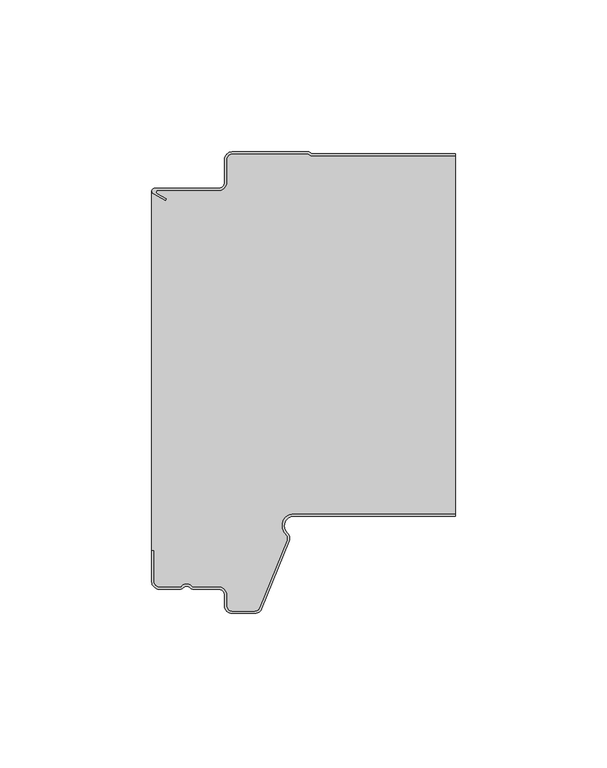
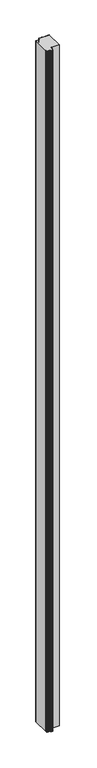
"""IFC4 building model written with IfcOpenShell, lengths in millimetres: plate geometry, ACH_Panel-Cubierta-3-Grecas-P3G : ACH_P3G_3-Rib-Roof-Panel_120M."""

from ifc_helpers import new_model, si_unit, point, frame_2d, origin, origin_with_axes, place, context, project, spatial, polyline, circle_curve, trimmed, segment, composite_curve, outline, extrude, source, transform, mapped, element, save


def plate_7d43ae7f(model_context):
    return source(origin(), model_context, "Body", "SweptSolid", [
        extrude(outline(composite_curve([segment(polyline([(-49.496875, -13.8660254), (-45.496875, -16.1754265), (-45.096875, -15.4826062), (-48.1272598, -13.7330127)]), True, "CONTINUOUS"), segment(trimmed(circle_curve(frame_2d((-47.8772598, -13.3)), 0.5), [point((-48.1272598, -13.7330127))], [point((-47.8772598, -12.8))], False, "CARTESIAN"), True, "CONTINUOUS"), segment(polyline([(-47.8772598, -12.8), (-27.996875, -12.8)]), True, "CONTINUOUS"), segment(trimmed(circle_curve(frame_2d((-27.996875, -10.0)), 2.8), [point((-27.996875, -12.8))], [point((-25.196875, -10.0))], True, "CARTESIAN"), True, "CONTINUOUS"), segment(polyline([(-25.196875, -10.0), (-25.196875, -2.5)]), True, "CONTINUOUS"), segment(trimmed(circle_curve(frame_2d((-23.496875, -2.5)), 1.7), [point((-25.196875, -2.5))], [point((-23.496875, -0.8))], False, "CARTESIAN"), True, "CONTINUOUS"), segment(polyline([(-23.496875, -0.8), (1.5686408, -0.8), (2.5661408, -1.4), (50.0, -1.4), (50.0, -119.2), (-3.2387629, -119.2)]), True, "CONTINUOUS"), segment(trimmed(circle_curve(frame_2d((-3.2387629, -123.1)), 3.9), [point((-3.2387629, -119.2))], [point((-5.8938106, -125.9566976))], True, "CARTESIAN"), True, "CONTINUOUS"), segment(trimmed(circle_curve(frame_2d((-7.0511391, -127.2019248)), 1.7), [point((-5.8938106, -125.9566976))], [point((-5.4749266, -127.838756))], False, "CARTESIAN"), True, "CONTINUOUS"), segment(polyline([(-5.4749266, -127.838756), (-14.4839337, -150.1368312)]), True, "CONTINUOUS"), segment(trimmed(circle_curve(frame_2d((-16.0601463, -149.5)), 1.7), [point((-14.4839337, -150.1368312))], [point((-16.0601463, -151.2))], False, "CARTESIAN"), True, "CONTINUOUS"), segment(polyline([(-16.0601463, -151.2), (-23.496875, -151.2)]), True, "CONTINUOUS"), segment(trimmed(circle_curve(frame_2d((-23.496875, -149.5)), 1.7), [point((-23.496875, -151.2))], [point((-25.196875, -149.5))], False, "CARTESIAN"), True, "CONTINUOUS"), segment(polyline([(-25.196875, -149.5), (-25.196875, -146.0)]), True, "CONTINUOUS"), segment(trimmed(circle_curve(frame_2d((-27.996875, -146.0)), 2.8), [point((-25.196875, -146.0))], [point((-27.996875, -143.2))], True, "CARTESIAN"), True, "CONTINUOUS"), segment(polyline([(-27.996875, -143.2), (-36.5995084, -143.2)]), True, "CONTINUOUS"), segment(trimmed(circle_curve(frame_2d((-38.496875, -144.5)), 2.3), [point((-36.5995084, -143.2))], [point((-40.3942416, -143.2))], True, "CARTESIAN"), True, "CONTINUOUS"), segment(polyline([(-40.3942416, -143.2), (-47.496875, -143.2)]), True, "CONTINUOUS"), segment(trimmed(circle_curve(frame_2d((-47.496875, -141.5)), 1.7), [point((-47.496875, -143.2))], [point((-49.196875, -141.5))], False, "CARTESIAN"), True, "CONTINUOUS"), segment(polyline([(-49.196875, -141.5), (-49.196875, -131.18), (-49.996875, -131.18), (-49.996875, -13.0)]), True, "CONTINUOUS"), segment(trimmed(circle_curve(frame_2d((-48.996875, -13.0)), 1.0), [point((-49.996875, -13.0))], [point((-49.496875, -13.8660254))], True, "CARTESIAN"), True, "CONTINUOUS")], self_intersect=False)), origin_with_axes(), (0.0, 0.0, 1.0), 5000.0),
        extrude(outline(composite_curve([segment(trimmed(circle_curve(frame_2d((-28.0, -10.0)), 2.0), [point((-28.0, -12.0))], [point((-26.0, -10.0))], True, "CARTESIAN"), True, "CONTINUOUS"), segment(polyline([(-26.0, -10.0), (-26.0, -2.5)]), True, "CONTINUOUS"), segment(trimmed(circle_curve(frame_2d((-23.5, -2.5)), 2.5), [point((-26.0, -2.5))], [point((-23.5, 0.0))], False, "CARTESIAN"), True, "CONTINUOUS"), segment(polyline([(-23.5, 0.0), (1.7875789, 0.0), (2.7850789, -0.6), (50.0, -0.6), (50.0, -1.4), (2.5630158, -1.4), (1.5655158, -0.8), (-23.5, -0.8)]), True, "CONTINUOUS"), segment(trimmed(circle_curve(frame_2d((-23.5, -2.5)), 1.7), [point((-23.5, -0.8))], [point((-25.2, -2.5))], True, "CARTESIAN"), True, "CONTINUOUS"), segment(polyline([(-25.2, -2.5), (-25.2, -10.0)]), True, "CONTINUOUS"), segment(trimmed(circle_curve(frame_2d((-28.0, -10.0)), 2.8), [point((-25.2, -10.0))], [point((-28.0, -12.8))], False, "CARTESIAN"), True, "CONTINUOUS"), segment(polyline([(-28.0, -12.8), (-47.8803848, -12.8)]), True, "CONTINUOUS"), segment(trimmed(circle_curve(frame_2d((-47.8803848, -13.3)), 0.5), [point((-47.8803848, -12.8))], [point((-48.1303848, -13.7330127))], True, "CARTESIAN"), True, "CONTINUOUS"), segment(polyline([(-48.1303848, -13.7330127), (-45.1, -15.4826062), (-45.5, -16.1754265), (-49.5, -13.8660254)]), True, "CONTINUOUS"), segment(trimmed(circle_curve(frame_2d((-49.0, -13.0)), 1.0), [point((-49.5, -13.8660254))], [point((-49.0, -12.0))], False, "CARTESIAN"), True, "CONTINUOUS"), segment(polyline([(-49.0, -12.0), (-28.0, -12.0)]), True, "CONTINUOUS")], self_intersect=False)), origin_with_axes(), (0.0, 0.0, 1.0), 5000.0),
        extrude(outline(composite_curve([segment(polyline([(-50.0, -141.5), (-50.0, -131.18), (-49.2, -131.18), (-49.2, -141.5)]), True, "CONTINUOUS"), segment(trimmed(circle_curve(frame_2d((-47.5, -141.5)), 1.7), [point((-49.2, -141.5))], [point((-47.5, -143.2))], True, "CARTESIAN"), True, "CONTINUOUS"), segment(polyline([(-47.5, -143.2), (-40.3973666, -143.2)]), True, "CONTINUOUS"), segment(trimmed(circle_curve(frame_2d((-38.5, -144.5)), 2.3), [point((-40.3973666, -143.2))], [point((-36.6026334, -143.2))], False, "CARTESIAN"), True, "CONTINUOUS"), segment(polyline([(-36.6026334, -143.2), (-28.0, -143.2)]), True, "CONTINUOUS"), segment(trimmed(circle_curve(frame_2d((-28.0, -146.0)), 2.8), [point((-28.0, -143.2))], [point((-25.2, -146.0))], False, "CARTESIAN"), True, "CONTINUOUS"), segment(polyline([(-25.2, -146.0), (-25.2, -149.5)]), True, "CONTINUOUS"), segment(trimmed(circle_curve(frame_2d((-23.5, -149.5)), 1.7), [point((-25.2, -149.5))], [point((-23.5, -151.2))], True, "CARTESIAN"), True, "CONTINUOUS"), segment(polyline([(-23.5, -151.2), (-16.0632713, -151.2)]), True, "CONTINUOUS"), segment(trimmed(circle_curve(frame_2d((-16.0632713, -149.5)), 1.7), [point((-16.0632713, -151.2))], [point((-14.4870587, -150.1368312))], True, "CARTESIAN"), True, "CONTINUOUS"), segment(polyline([(-14.4870587, -150.1368312), (-5.4780516, -127.838756)]), True, "CONTINUOUS"), segment(trimmed(circle_curve(frame_2d((-7.0542641, -127.2019248)), 1.7), [point((-5.4780516, -127.838756))], [point((-5.8969356, -125.9566976))], True, "CARTESIAN"), True, "CONTINUOUS"), segment(trimmed(circle_curve(frame_2d((-3.2418879, -123.1)), 3.9), [point((-5.8969356, -125.9566976))], [point((-3.2418879, -119.2))], False, "CARTESIAN"), True, "CONTINUOUS"), segment(polyline([(-3.2418879, -119.2), (50.0, -119.2), (50.0, -120.0), (-3.2418879, -120.0)]), True, "CONTINUOUS"), segment(trimmed(circle_curve(frame_2d((-3.2418879, -123.1)), 3.1), [point((-3.2418879, -120.0))], [point((-5.3523104, -125.3707084))], True, "CARTESIAN"), True, "CONTINUOUS"), segment(trimmed(circle_curve(frame_2d((-7.0542641, -127.2019248)), 2.5), [point((-5.3523104, -125.3707084))], [point((-4.7363045, -128.1384413))], False, "CARTESIAN"), True, "CONTINUOUS"), segment(polyline([(-4.7363045, -128.1384413), (-13.7453117, -150.4365165)]), True, "CONTINUOUS"), segment(trimmed(circle_curve(frame_2d((-16.0632713, -149.5)), 2.5), [point((-13.7453117, -150.4365165))], [point((-16.0632713, -152.0))], False, "CARTESIAN"), True, "CONTINUOUS"), segment(polyline([(-16.0632713, -152.0), (-23.5, -152.0)]), True, "CONTINUOUS"), segment(trimmed(circle_curve(frame_2d((-23.5, -149.5)), 2.5), [point((-23.5, -152.0))], [point((-26.0, -149.5))], False, "CARTESIAN"), True, "CONTINUOUS"), segment(polyline([(-26.0, -149.5), (-26.0, -146.0)]), True, "CONTINUOUS"), segment(trimmed(circle_curve(frame_2d((-28.0, -146.0)), 2.0), [point((-26.0, -146.0))], [point((-28.0, -144.0))], True, "CARTESIAN"), True, "CONTINUOUS"), segment(polyline([(-28.0, -144.0), (-36.263932, -144.0)]), True, "CONTINUOUS"), segment(trimmed(circle_curve(frame_2d((-36.263932, -142.5)), 1.5), [point((-36.263932, -144.0))], [point((-37.381966, -143.5))], False, "CARTESIAN"), True, "CONTINUOUS"), segment(trimmed(circle_curve(frame_2d((-38.5, -144.5)), 1.5), [point((-37.381966, -143.5))], [point((-39.618034, -143.5))], True, "CARTESIAN"), True, "CONTINUOUS"), segment(trimmed(circle_curve(frame_2d((-40.736068, -142.5)), 1.5), [point((-39.618034, -143.5))], [point((-40.736068, -144.0))], False, "CARTESIAN"), True, "CONTINUOUS"), segment(polyline([(-40.736068, -144.0), (-47.5, -144.0)]), True, "CONTINUOUS"), segment(trimmed(circle_curve(frame_2d((-47.5, -141.5)), 2.5), [point((-47.5, -144.0))], [point((-50.0, -141.5))], False, "CARTESIAN"), True, "CONTINUOUS")], self_intersect=False)), origin_with_axes(), (0.0, 0.0, 1.0), 5000.0),
    ])


if __name__ == "__main__":
    model = new_model("IFC4")
    model_context = context("Model", 3, world=origin())
    ifc_project = project(units=[si_unit("LENGTHUNIT", "METRE", prefix="MILLI")], contexts=[model_context])
    site = spatial("IfcSite", under=ifc_project)
    building = spatial("IfcBuilding", under=site)
    placement = place(None, origin())
    plate_shape = plate_7d43ae7f(model_context)
    element("IfcPlate", 1, ObjectType="ACH_Panel-Cubierta-3-Grecas-P3G : ACH_P3G_3-Rib-Roof-Panel_120M", at=placement, inside=building, context=model_context, shape_type="MappedRepresentation", body=[
        mapped(plate_shape, transform((0.0, 0.0, 0.0), x_axis=(1.0, 0.0, 0.0), y_axis=(0.0, 1.0, 0.0), z_axis=(0.0, 0.0, 1.0))),
    ])
    save(model, "model.ifc")
